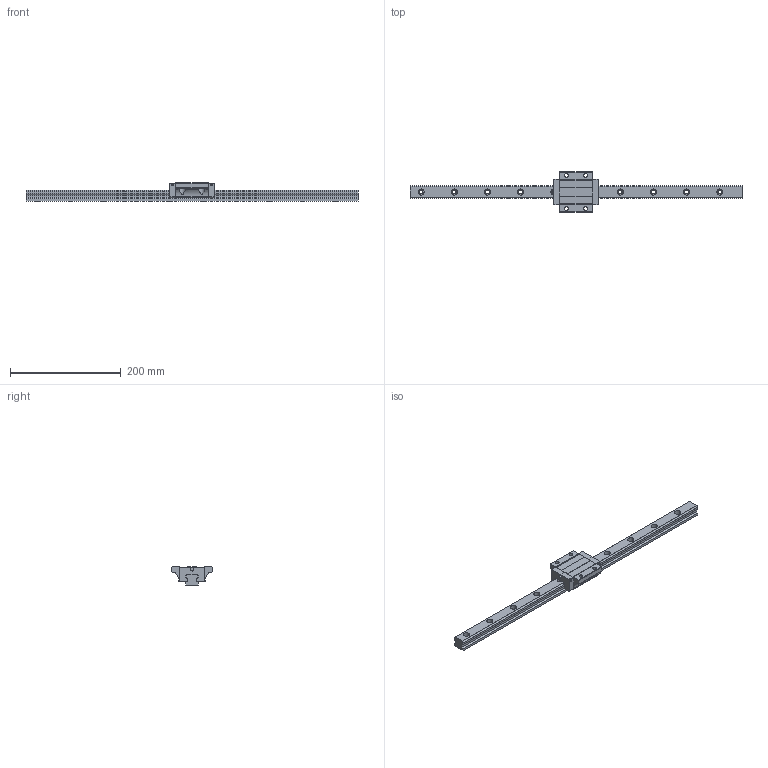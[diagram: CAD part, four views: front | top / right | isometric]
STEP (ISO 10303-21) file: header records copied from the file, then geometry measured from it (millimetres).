
FILE_DESCRIPTION (( 'STEP AP203' ), '1' );
FILE_NAME ('TRS25FN-XN.STEP', '2024-05-22T07:52:22', ( '' ), ( '' ), 'SwSTEP 2.0', 'SolidWorks 2022', '' );
FILE_SCHEMA (( 'CONFIG_CONTROL_DESIGN' ));
Length unit declared in the file: millimetre
Products named in the file (1): TRS25FN-XN
Bounding box: 600 x 73 x 33 mm (x, y, z)
Volume: 326213.3 mm3; surface area: 79732 mm2
Topology: 2 solids, 2 shells, 230 faces, 614 edges, 400 vertices
Faces by surface type: cylinder 126, plane 100, sphere 4
Entity records: 7971 total; most frequent: CARTESIAN_POINT 1955, DIRECTION 1274, ORIENTED_EDGE 1220, EDGE_CURVE 610, AXIS2_PLACEMENT_3D 459, VERTEX_POINT 400, VECTOR 356, LINE 356
